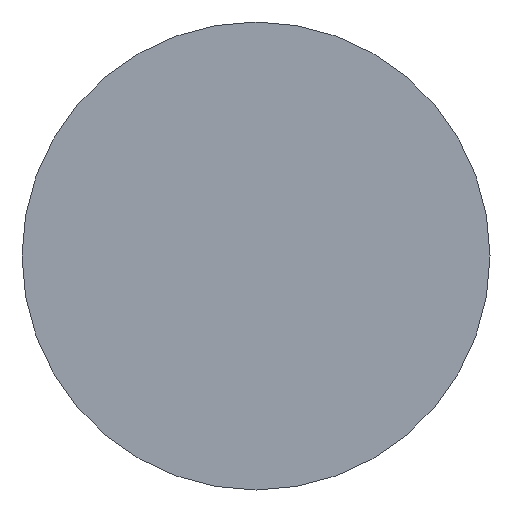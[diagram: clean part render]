
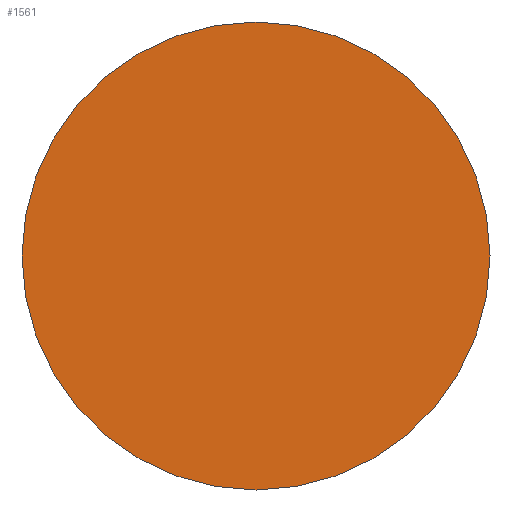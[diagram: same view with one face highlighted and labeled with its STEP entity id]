
A CAD part, front view. The second image highlights one B-rep face of the part: STEP entity #1561.
In plain terms, the highlighted planar face has unit normal (0, -1, 0).
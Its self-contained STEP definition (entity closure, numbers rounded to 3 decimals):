
#15 = DIRECTION ( 'NONE',  ( 0., 0., 1. ) ) ;
#38 = CARTESIAN_POINT ( 'NONE',  ( 0., 0., -25.25 ) ) ;
#201 = CARTESIAN_POINT ( 'NONE',  ( 0., 0., 25.25 ) ) ;
#241 = DIRECTION ( 'NONE',  ( 0., 1., 0. ) ) ;
#557 = CIRCLE ( 'NONE', #1819, 25.25 ) ;
#626 = VERTEX_POINT ( 'NONE', #201 ) ;
#693 = DIRECTION ( 'NONE',  ( 0., 0., 1. ) ) ;
#705 = EDGE_CURVE ( 'NONE', #2365, #626, #2564, .T. ) ;
#799 = AXIS2_PLACEMENT_3D ( 'NONE', #2451, #241, #15 ) ;
#887 = CARTESIAN_POINT ( 'NONE',  ( 0., 0., 0. ) ) ;
#964 = DIRECTION ( 'NONE',  ( 0., 0., 1. ) ) ;
#1196 = DIRECTION ( 'NONE',  ( 0., 1., 0. ) ) ;
#1318 = FACE_OUTER_BOUND ( 'NONE', #1563, .T. ) ;
#1561 = ADVANCED_FACE ( 'NONE', ( #1318 ), #2416, .F. ) ;
#1563 = EDGE_LOOP ( 'NONE', ( #2591, #2394 ) ) ;
#1671 = CARTESIAN_POINT ( 'NONE',  ( 0., 0., 0. ) ) ;
#1819 = AXIS2_PLACEMENT_3D ( 'NONE', #1671, #1196, #964 ) ;
#1912 = AXIS2_PLACEMENT_3D ( 'NONE', #887, #2879, #693 ) ;
#1997 = EDGE_CURVE ( 'NONE', #626, #2365, #557, .T. ) ;
#2365 = VERTEX_POINT ( 'NONE', #38 ) ;
#2394 = ORIENTED_EDGE ( 'NONE', *, *, #705, .F. ) ;
#2416 = PLANE ( 'NONE',  #1912 ) ;
#2451 = CARTESIAN_POINT ( 'NONE',  ( 0., 0., 0. ) ) ;
#2564 = CIRCLE ( 'NONE', #799, 25.25 ) ;
#2591 = ORIENTED_EDGE ( 'NONE', *, *, #1997, .F. ) ;
#2879 = DIRECTION ( 'NONE',  ( 0., 1., 0. ) ) ;
